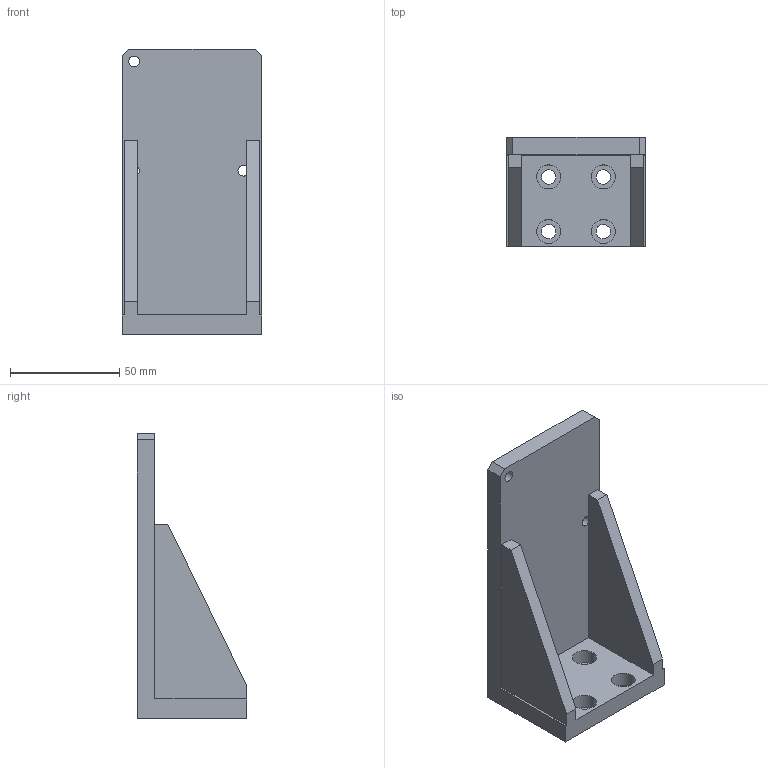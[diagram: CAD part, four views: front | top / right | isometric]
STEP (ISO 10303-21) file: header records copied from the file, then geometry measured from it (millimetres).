
FILE_DESCRIPTION(/* description */ (''),/* implementation_level */ '2;1');
FILE_NAME(/* name */ 'U:\KONSTRUKTORIAI\DOKUMENTACIJA\2\2AB\2AB151-002\STEP\2AB151-002.stp',/* time_stamp */ '2016-12-21T13:23:19+02:00',/* author */ ('dsgn39'),/* organization */ (''),/* preprocessor_version */ 'ST-DEVELOPER v15.2',/* originating_system */ 'Autodesk Inventor 2014',/* authorisation */ '');
FILE_SCHEMA (('AUTOMOTIVE_DESIGN { 1 0 10303 214 3 1 1 }'));
Length unit declared in the file: millimetre
Products named in the file (2): Part6; Assembly3
Bounding box: 64 x 50 x 130.5 mm (x, y, z)
Volume: 109505.4 mm3; surface area: 40373.6 mm2
Topology: 1 solids, 43 shells, 478 faces, 1054 edges, 685 vertices
Faces by surface type: plane 257, cylinder 116, cone 63, torus 42
Full cylindrical faces by diameter (mm): 2.459 x21, 3 x21, 3.4 x21, 4.917 x3, 5.5 x21, 6 x21, 6.6 x4, 11 x4
Entity records: 11028 total; most frequent: CARTESIAN_POINT 2051, DIRECTION 1866, ORIENTED_EDGE 1466, EDGE_LOOP 778, AXIS2_PLACEMENT_3D 778, EDGE_CURVE 733, VERTEX_POINT 585, ADVANCED_FACE 478
